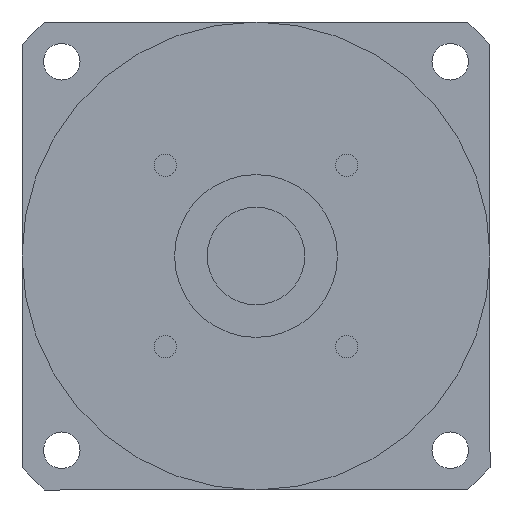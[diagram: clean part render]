
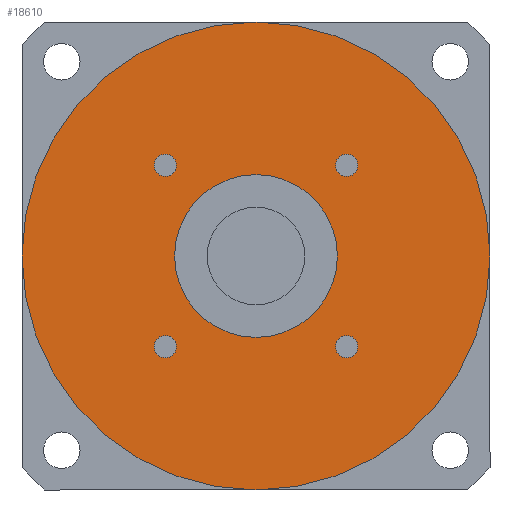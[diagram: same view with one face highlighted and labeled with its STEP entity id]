
A CAD part, left-side view. The second image highlights one B-rep face of the part: STEP entity #18610.
In plain terms, the highlighted planar face has unit normal (-1, 0, 0) as drawn and (0, 0, -1) by its records, which use the part's own axes.
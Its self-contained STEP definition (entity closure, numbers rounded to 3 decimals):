
#15820=CARTESIAN_POINT('',(-19.524,-22.274,-118.));
#15830=VERTEX_POINT('',#15820);
#15910=CARTESIAN_POINT('',(-25.024,-22.274,-118.));
#15920=VERTEX_POINT('',#15910);
#15950=CARTESIAN_POINT('',(-22.274,-22.274,-118.));
#15960=DIRECTION('',(0.,0.,1.));
#15970=DIRECTION('',(1.,0.,0.));
#15980=AXIS2_PLACEMENT_3D('',#15950,#15960,#15970);
#15990=CIRCLE('',#15980,2.75);
#16000=EDGE_CURVE('',#15920,#15830,#15990,.T.);
#16140=CARTESIAN_POINT('',(19.524,22.274,-118.));
#16150=VERTEX_POINT('',#16140);
#16330=CARTESIAN_POINT('',(25.024,22.274,-118.));
#16340=VERTEX_POINT('',#16330);
#16370=CARTESIAN_POINT('',(22.274,22.274,-118.));
#16380=DIRECTION('',(0.,0.,1.));
#16390=DIRECTION('',(-1.,0.,0.));
#16400=AXIS2_PLACEMENT_3D('',#16370,#16380,#16390);
#16410=CIRCLE('',#16400,2.75);
#16420=EDGE_CURVE('',#16340,#16150,#16410,.T.);
#17680=CARTESIAN_POINT('',(57.5,0.,-118.));
#17690=VERTEX_POINT('',#17680);
#17720=CARTESIAN_POINT('',(0.,0.,
-118.));
#17730=DIRECTION('',(0.,0.,1.));
#17740=DIRECTION('',(0.,-1.,0.));
#17750=AXIS2_PLACEMENT_3D('',#17720,#17730,#17740);
#17760=CIRCLE('',#17750,57.5);
#17770=CARTESIAN_POINT('',(0.,-57.5,-118.));
#17780=VERTEX_POINT('',#17770);
#17790=EDGE_CURVE('',#17780,#17690,#17760,.T.);
#17810=CARTESIAN_POINT('',(-57.5,0.,-118.));
#17820=VERTEX_POINT('',#17810);
#17830=EDGE_CURVE('',#17820,#17780,#17760,.T.);
#17950=CARTESIAN_POINT('',(0.,0.,
-118.));
#17960=DIRECTION('',(0.,0.,1.));
#17970=DIRECTION('',(-1.,0.,0.));
#17980=AXIS2_PLACEMENT_3D('',#17950,#17960,#17970);
#17990=PLANE('',#17980);
#18000=CARTESIAN_POINT('',(0.,0.,
-118.));
#18010=DIRECTION('',(0.,0.,1.));
#18020=DIRECTION('',(1.,0.,0.));
#18030=AXIS2_PLACEMENT_3D('',#18000,#18010,#18020);
#18040=CIRCLE('',#18030,20.);
#18050=CARTESIAN_POINT('',(20.,0.,-118.));
#18060=VERTEX_POINT('',#18050);
#18070=CARTESIAN_POINT('',(-20.,0.,-118.));
#18080=VERTEX_POINT('',#18070);
#18090=EDGE_CURVE('',#18060,#18080,#18040,.T.);
#18100=ORIENTED_EDGE('',*,*,#18090,.T.);
#18110=EDGE_CURVE('',#18080,#18060,#18040,.T.);
#18120=ORIENTED_EDGE('',*,*,#18110,.T.);
#18130=EDGE_LOOP('',(#18120,#18100));
#18140=FACE_BOUND('',#18130,.T.);
#18150=CARTESIAN_POINT('',(22.274,-22.274,-118.));
#18160=DIRECTION('',(0.,0.,1.));
#18170=DIRECTION('',(0.,1.,0.));
#18180=AXIS2_PLACEMENT_3D('',#18150,#18160,#18170);
#18190=CIRCLE('',#18180,2.75);
#18200=CARTESIAN_POINT('',(22.274,-19.524,-118.));
#18210=VERTEX_POINT('',#18200);
#18220=CARTESIAN_POINT('',(22.274,-25.024,-118.));
#18230=VERTEX_POINT('',#18220);
#18240=EDGE_CURVE('',#18210,#18230,#18190,.T.);
#18250=ORIENTED_EDGE('',*,*,#18240,.T.);
#18260=EDGE_CURVE('',#18230,#18210,#18190,.T.);
#18270=ORIENTED_EDGE('',*,*,#18260,.T.);
#18280=EDGE_LOOP('',(#18270,#18250));
#18290=FACE_BOUND('',#18280,.T.);
#18300=EDGE_CURVE('',#16150,#16340,#16410,.T.);
#18310=ORIENTED_EDGE('',*,*,#18300,.T.);
#18320=ORIENTED_EDGE('',*,*,#16420,.T.);
#18330=EDGE_LOOP('',(#18320,#18310));
#18340=FACE_BOUND('',#18330,.T.);
#18350=CARTESIAN_POINT('',(-22.274,22.274,-118.));
#18360=DIRECTION('',(0.,0.,1.));
#18370=DIRECTION('',(0.,-1.,0.));
#18380=AXIS2_PLACEMENT_3D('',#18350,#18360,#18370);
#18390=CIRCLE('',#18380,2.75);
#18400=CARTESIAN_POINT('',(-22.274,19.524,-118.));
#18410=VERTEX_POINT('',#18400);
#18420=CARTESIAN_POINT('',(-22.274,25.024,-118.));
#18430=VERTEX_POINT('',#18420);
#18440=EDGE_CURVE('',#18410,#18430,#18390,.T.);
#18450=ORIENTED_EDGE('',*,*,#18440,.T.);
#18460=EDGE_CURVE('',#18430,#18410,#18390,.T.);
#18470=ORIENTED_EDGE('',*,*,#18460,.T.);
#18480=EDGE_LOOP('',(#18470,#18450));
#18490=FACE_BOUND('',#18480,.T.);
#18500=EDGE_CURVE('',#15830,#15920,#15990,.T.);
#18510=ORIENTED_EDGE('',*,*,#18500,.T.);
#18520=ORIENTED_EDGE('',*,*,#16000,.T.);
#18530=EDGE_LOOP('',(#18520,#18510));
#18540=FACE_BOUND('',#18530,.T.);
#18550=ORIENTED_EDGE('',*,*,#17790,.F.);
#18560=EDGE_CURVE('',#17690,#17820,#17760,.T.);
#18570=ORIENTED_EDGE('',*,*,#18560,.F.);
#18580=ORIENTED_EDGE('',*,*,#17830,.F.);
#18590=EDGE_LOOP('',(#18580,#18570,#18550));
#18600=FACE_OUTER_BOUND('',#18590,.T.);
#18610=ADVANCED_FACE('',(#18140,#18290,#18340,#18490,#18540,#18600),
#17990,.F.);
